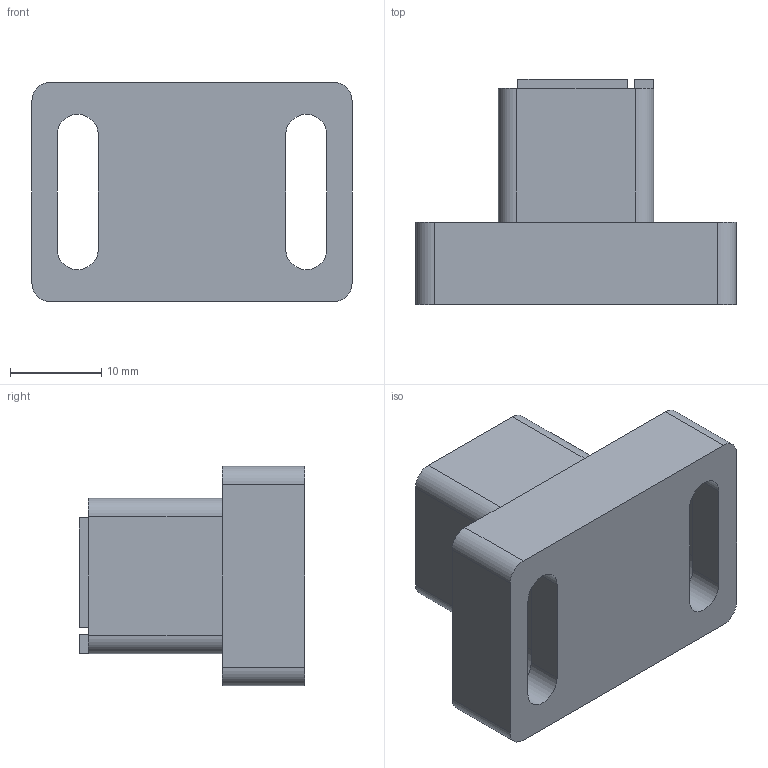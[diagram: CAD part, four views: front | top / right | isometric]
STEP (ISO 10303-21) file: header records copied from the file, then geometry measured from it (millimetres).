
FILE_DESCRIPTION(/* description */ (''),/* implementation_level */ '2;1');
FILE_NAME(/* name */ 'PBS-mount-one_body.stp',/* time_stamp */ '2026-04-13T14:59:50+08:00',/* author */ ('lbx20'),/* organization */ (''),/* preprocessor_version */ 'ST-DEVELOPER v20.1',/* originating_system */ 'Autodesk Inventor 2026',/* authorisation */ '');
FILE_SCHEMA (('AUTOMOTIVE_DESIGN { 1 0 10303 214 3 1 1 }'));
Length unit declared in the file: millimetre
Products named in the file (1): newPBS adaptor 12.6
Bounding box: 35 x 24.65 x 24 mm (x, y, z)
Volume: 9684.4 mm3; surface area: 4232.5 mm2
Topology: 1 solids, 1 shells, 43 faces, 120 edges, 80 vertices
Faces by surface type: plane 27, cylinder 16
Entity records: 1437 total; most frequent: CARTESIAN_POINT 244, ORIENTED_EDGE 240, DIRECTION 240, EDGE_CURVE 120, LINE 88, VECTOR 88, VERTEX_POINT 80, AXIS2_PLACEMENT_3D 76
